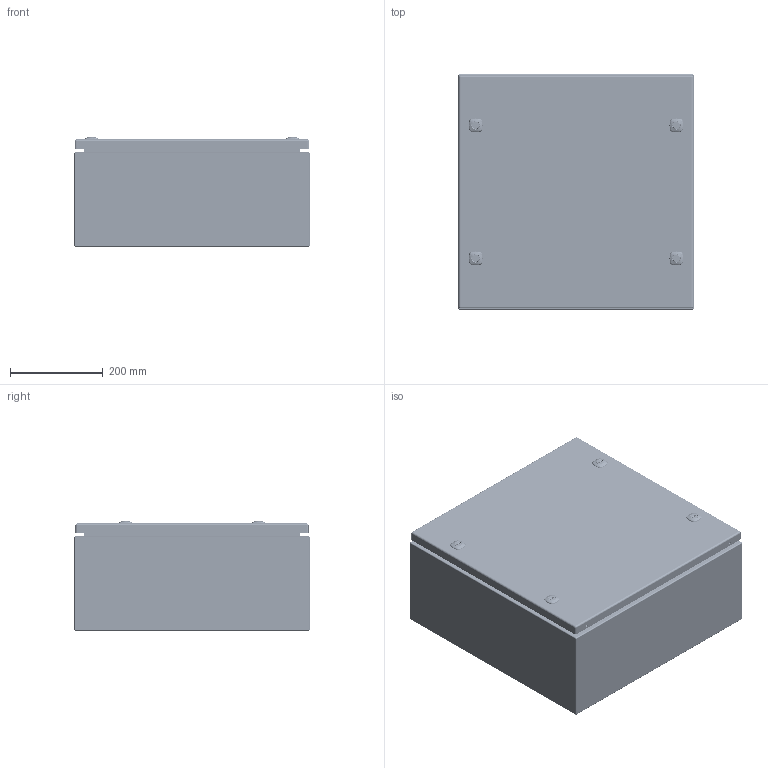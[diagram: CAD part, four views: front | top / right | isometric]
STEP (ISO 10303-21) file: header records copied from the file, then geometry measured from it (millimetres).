
FILE_DESCRIPTION(/* description */ ('5412ESQT 20" x 20" x 8" Assembly'),/* implementation_level */ '2;1');
FILE_NAME(/* name */ 'C:\Vault_Workspace\Inventor_Dwg\BoxCad\Result\5412ESQT202008\e-mail\3D\5412ESQT202008.stp',/* time_stamp */ '2021-05-04T10:34:15-04:00',/* author */ ('BoxCad'),/* organization */ (''),/* preprocessor_version */ 'ST-DEVELOPER v18.1',/* originating_system */ 'Autodesk Inventor 2020',/* authorisation */ '');
FILE_SCHEMA (('AUTOMOTIVE_DESIGN { 1 0 10303 214 3 1 1 }'));
Products named in the file (42): 5412ESQT202008; 5412ESQT202008B; 5412ESQT202008B-P; STK-Q-16005; STUD_M6 x 16mm; STK-Q-07610; 881SP2020G; 881SP2020G-P; STK-Q-07310; 5412ESQT202008C; 5412ESQT202008C-P; 5412ESQT202008G; STK-Q-46020-20; STK-Q-07220-1; STK-Q-07220-2; STK-Q-07220-3; STK-Q-07220-4; STK-Q-07220-A; STK-Q-07220-B; STK-Q-46515-1; STK-Q-46515-2; STK-Q-46515-3; STK-Q-16055; STK-Q-46515-4; STK-Q-46515-B; STK-Q-46515-A; STK-P-02400S; STK-S-00100; STK-A-880SCQ4-SL-1; STK-A-880SCQ4-SL-2; STK-A-880SCQ4-SL-3; STK-A-880SCQ4-SL-4; STK-Q-78110; STK-Q-78120; STK-Q-78145; STK-Q-03200; STK-Q-78125; STK-Q-78141; STK-Q-90390; STK-Q-78160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
Assembly tree (95 placements, depth 4):
  5412ESQT202008
    5412ESQT202008B
      5412ESQT202008B-P
      STK-Q-16005  x4
      STK-P-02400S
      STUD_M6 x 16mm
    STK-Q-07610  x4
    881SP2020G
      881SP2020G-P
    STK-Q-07310  x4
    5412ESQT202008C
      5412ESQT202008C-P
      5412ESQT202008G
      STK-Q-16055  x8
      STK-Q-46020-20  x2
      STK-Q-07220-1
        STK-Q-07220-A
        STK-Q-07220-B
      STK-Q-07220-2
        STK-Q-07220-A
        STK-Q-07220-B
      STK-Q-07220-3
        STK-Q-07220-A
        STK-Q-07220-B
      STK-Q-07220-4
        STK-Q-07220-A
        STK-Q-07220-B
      STK-Q-46515-1
        STK-Q-46515-B
        STK-Q-46515-A
      STK-Q-46515-2
        STK-Q-46515-B
        STK-Q-46515-A
      STK-Q-46515-3
        STK-Q-46515-B
        STK-Q-46515-A
      STK-Q-46515-4
        STK-Q-46515-B
        STK-Q-46515-A
      STK-P-02400S
      STK-S-00100
      STK-A-880SCQ4-SL-1
        STK-Q-78110
        STK-Q-78120
        STK-Q-78145
        STK-Q-03200
        STK-Q-78125
        STK-Q-78141
        STK-Q-90390
        STK-Q-78160
      STK-A-880SCQ4-SL-2
        STK-Q-78110
        STK-Q-78120
        STK-Q-78145
        STK-Q-03200
        STK-Q-78125
        STK-Q-78141
        STK-Q-90390
        STK-Q-78160
      STK-A-880SCQ4-SL-3
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Bounding box: 508 x 508 x 235.78 mm (x, y, z)
Volume: 2217961.2 mm3; surface area: 2747134.5 mm2
Topology: 76 solids, 76 shells, 13001 faces, 35244 edges, 22591 vertices
Faces by surface type: bspline 4844, plane 4316, cylinder 2940, torus 499, cone 226, sphere 176
Full cylindrical faces by diameter (mm): 0 x1, 0.75 x13, 0.762 x13, 4.191 x32, 4.5 x8, 5 x4, 5.1 x56, 5.105 x52, 5.156 x4, 5.9 x33, 6.015 x32, 6.65 x4, 6.8 x4, 6.85 x16, 7.366 x4, 7.468 x8, 7.9 x8, 8 x12, 9.5 x4, 9.6 x4, 9.654 x4, 9.906 x4, 10 x4, 12.7 x4, 12.8 x4, 13 x4, 15.9 x4, 16 x4, 18.2 x4, 19.7 x4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
Entity records: 130635 total; most frequent: CARTESIAN_POINT 56448, ORIENTED_EDGE 17352, DIRECTION 11421, EDGE_CURVE 8676, VERTEX_POINT 5565, AXIS2_PLACEMENT_3D 3955, B_SPLINE_CURVE_WITH_KNOTS 3596, LINE 3511
